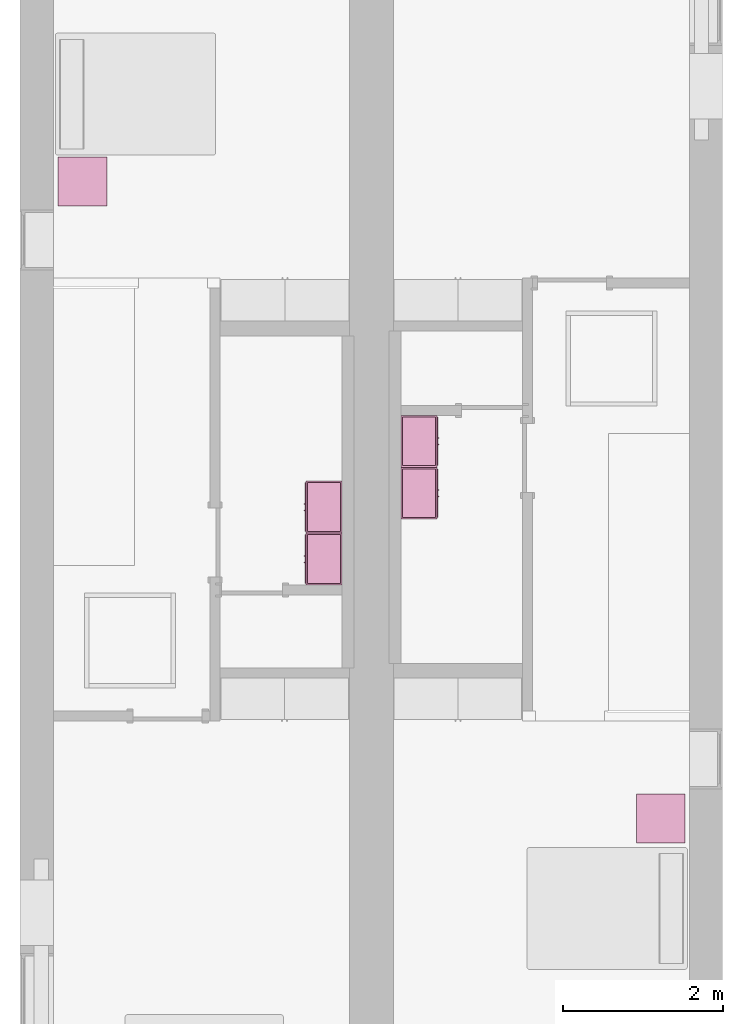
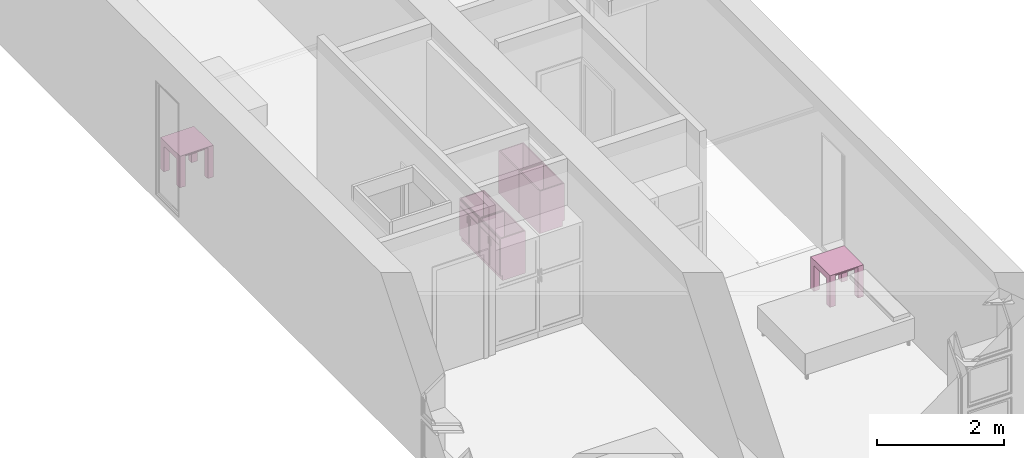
# One storey, part 6 of 8: 6 furnishings.
"""IFC4 building model written with IfcOpenShell, lengths in metres."""

from ifc_helpers import new_model, entity, si_unit, converted_unit, frame, origin, origin_2d_with_axis, place, context, project, spatial, polyline, rectangle, outline, extrude, face_set, surface_model, source, transform, mapped, element, save


model = new_model("IFC4")

# Units and contexts
model_context = context("Model", 3, precision=1e-09, world=origin())
plan_context = context("Plan", 3, precision=1e-09, world=origin())
ifc_project = project(units=[si_unit("LENGTHUNIT", "METRE"), si_unit("AREAUNIT", "SQUARE_METRE"), si_unit("VOLUMEUNIT", "CUBIC_METRE"), converted_unit("PLANEANGLEUNIT", "DEGREE", entity("IfcRatioMeasure", 0.01745329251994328), si_unit("PLANEANGLEUNIT", "RADIAN"), dimensions=[0, 0, 0, 0, 0, 0, 0]), si_unit("TIMEUNIT", "SECOND")], contexts=[model_context, plan_context])

# Site, building, storey, space
site_placement = place(None, origin())
site = spatial("IfcSite", under=ifc_project, at=site_placement, Name="Default", CompositionType="ELEMENT")
building_placement = place(site_placement, origin())
building = spatial("IfcBuilding", under=site, at=building_placement, CompositionType="ELEMENT")
storey_placement = place(building_placement, frame((0.0, 0.0, 3.100000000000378)))
storey = spatial("IfcBuildingStorey", under=building, at=storey_placement, Name="Level 2", CompositionType="ELEMENT", Elevation=3.100000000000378)
space_1_placement = place(storey_placement, origin())
space_1 = spatial("IfcSpace", under=storey, at=space_1_placement, Name="B203", CompositionType="ELEMENT", PredefinedType="INTERNAL")

# Furnishing
shared_shape_1 = source(origin(), model_context, "Body", "SweptSolid", [
    extrude(rectangle(XDim=0.4067999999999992, YDim=0.4067999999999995, at=origin_2d_with_axis()), frame((0.01826576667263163, 0.09521107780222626, 0.4957000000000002), z_axis=(0.0, 0.0, 1.0), x_axis=(-1.0, 0.0, 0.0)), (0.0, 0.0, 1.0), 0.01270000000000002),
    extrude(outline(polyline([(-0.2732499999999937, -0.3050000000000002), (0.3240499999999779, -0.3050000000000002), (0.3240499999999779, 0.3049999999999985), (-0.2732499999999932, 0.3049999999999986), (-0.2732499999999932, 0.2034000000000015), (0.2224500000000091, 0.2034000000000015), (0.2224500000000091, -0.2033999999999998), (-0.2732499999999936, -0.2033999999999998), (-0.2732499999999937, -0.3050000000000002)])), frame((0.2216657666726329, 0.09521107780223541, 0.2732499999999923), z_axis=(1.0, 0.0, 0.0), x_axis=(0.0, 0.0, 1.0)), (0.0, 0.0, 1.0), 0.1016),
    extrude(outline(polyline([(-0.3050000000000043, -0.3240500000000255), (0.3049999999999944, -0.3240500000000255), (0.3049999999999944, 0.2732500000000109), (0.2034000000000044, 0.2732500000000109), (0.2034000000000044, -0.2224499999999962), (-0.2033999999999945, -0.2224499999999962), (-0.2033999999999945, 0.2732500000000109), (-0.3050000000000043, 0.2732500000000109), (-0.3050000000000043, -0.3240500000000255)])), frame((-0.2867342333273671, 0.09521107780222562, 0.2732500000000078), z_axis=(1.0, 0.0, 0.0), x_axis=(0.0, -1.0, 0.0)), (0.0, 0.0, 1.0), 0.1016),
    extrude(rectangle(XDim=0.4067999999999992, YDim=0.4067999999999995, at=origin_2d_with_axis()), frame((0.01826576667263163, 0.09521107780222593, 0.5973000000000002), z_axis=(0.0, 0.0, 1.0), x_axis=(-1.0, 0.0, 0.0)), (0.0, 0.0, 1.0), 0.01270000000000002),
    extrude(outline(polyline([(-0.3050000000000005, -0.3050000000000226), (0.3050000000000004, -0.3050000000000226), (0.3050000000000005, 0.3050000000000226), (-0.3050000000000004, 0.3050000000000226), (-0.3050000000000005, -0.3050000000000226)]), holes=[polyline([(-0.203399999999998, -0.2033999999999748), (-0.2033999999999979, 0.2034000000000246), (0.2034000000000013, 0.2034000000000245), (0.2034000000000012, -0.2033999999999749), (-0.203399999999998, -0.2033999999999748)])]), frame((0.01826576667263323, 0.09521107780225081, 0.5973000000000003), z_axis=(0.0, 0.0, 1.0), x_axis=(-1.0, 0.0, 0.0)), (0.0, 0.0, 1.0), 0.01269999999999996),
])
furnishing_1_placement = place(space_1_placement, frame((0.7637342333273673, -5.012211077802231, 0.01899999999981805)))
element("IfcFurnishingElement", 1, at=furnishing_1_placement, inside=space_1, Name="M_Table-Coffee:0610 x 0610 x 0610mm:0610 x 0610 x 0610mm", ObjectType="0610 x 0610 x 0610mm", context=model_context, shape_type="MappedRepresentation", body=[
    mapped(shared_shape_1, transform((0.0, 0.0, 0.0), scale=1.0)),
])

# Space
space_2_placement = place(storey_placement, origin())
space_2 = spatial("IfcSpace", under=storey, at=space_2_placement, Name="A203", CompositionType="ELEMENT", PredefinedType="INTERNAL")

# Furnishing
furnishing_2_placement = place(space_2_placement, frame((8.004734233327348, -12.98921107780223, 0.01899999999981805)))
element("IfcFurnishingElement", 2, at=furnishing_2_placement, inside=space_2, Name="M_Table-Coffee:0610 x 0610 x 0610mm:0610 x 0610 x 0610mm", ObjectType="0610 x 0610 x 0610mm", context=model_context, shape_type="MappedRepresentation", body=[
    mapped(shared_shape_1, transform((0.0, 0.0, 0.0), scale=1.0)),
])

# Space
space_3_placement = place(storey_placement, origin())
space_3 = spatial("IfcSpace", under=storey, at=space_3_placement, Name="B204", CompositionType="ELEMENT", PredefinedType="INTERNAL")

# Furnishings
shared_shape_2 = source(origin(), model_context, "Body", "SurfaceModel", [
    surface_model("IfcFaceBasedSurfaceModel", [(0.6309500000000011, 0.04444999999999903, 0.8199999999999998), (0.6309500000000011, 0.04444999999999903, 0.09999999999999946), (0.01904999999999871, 0.04444999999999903, 0.09999999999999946), (0.01904999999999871, 0.04444999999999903, 0.8199999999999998), (0.6499999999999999, 0.02540000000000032, 0.8199999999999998), (0.0, 0.02540000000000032, 0.8199999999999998), (0.6499999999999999, 0.02540000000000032, 0.09999999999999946), (0.0, 0.02540000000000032, 0.09999999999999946), (0.01904999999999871, 0.4563500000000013, 0.8199999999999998), (0.01904999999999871, 0.4563500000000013, 0.09999999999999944), (0.01904999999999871, 0.06040000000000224, 0.09999999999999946), (0.0, 0.4754, 0.8199999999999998), (0.0, 0.4754, 0.0), (0.0, 0.06040000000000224, 0.0), (0.0, 0.06040000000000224, 0.09999999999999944), (0.6309500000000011, 0.4563500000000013, 0.8199999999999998), (0.6309500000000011, 0.4563500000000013, 0.09999999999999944), (0.6499999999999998, 0.4754, 0.8199999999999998), (0.6499999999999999, 0.4754, 0.0), (0.6309500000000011, 0.06040000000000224, 0.09999999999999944), (0.6499999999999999, 0.06040000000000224, 0.09999999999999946), (0.6499999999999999, 0.06040000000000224, 0.0), (0.2900749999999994, 0.0, 0.6422000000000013), (0.2900749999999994, 0.0, 0.5174698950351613), (0.2773749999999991, 0.0, 0.5174698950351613), (0.2773749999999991, 0.0, 0.6422000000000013), (0.3726249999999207, 0.0, 0.6422000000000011), (0.3726249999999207, 0.0, 0.5174698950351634), (0.3599249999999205, 0.0, 0.5174698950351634), (0.3599249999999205, 0.0, 0.6422000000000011), (0.2900749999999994, 0.01270000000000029, 0.6422000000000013), (0.2900749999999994, 0.01270000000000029, 0.5174698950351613), (0.2773749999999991, 0.01270000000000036, 0.5174698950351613), (0.2773749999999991, 0.01270000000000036, 0.6422000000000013), (0.3726249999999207, 0.01270000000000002, 0.6422000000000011), (0.3726249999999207, 0.01270000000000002, 0.5174698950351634), (0.3599249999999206, 0.01270000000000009, 0.5174698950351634), (0.3599249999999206, 0.01270000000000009, 0.6422000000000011), (0.3154749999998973, 0.01270000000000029, 0.6803000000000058), (0.3154749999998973, 0.01270000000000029, 0.1190499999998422), (0.01905000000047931, 0.01270000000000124, 0.1190499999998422), (0.01905000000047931, 0.01270000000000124, 0.6803000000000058), (0.6309500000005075, 0.01269999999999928, 0.6803000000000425), (0.6309500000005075, 0.01269999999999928, 0.1190499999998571), (0.3345249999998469, 0.01270000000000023, 0.1190499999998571), (0.3345249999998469, 0.01270000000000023, 0.6803000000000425), (0.6309500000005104, 0.01269999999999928, 0.8009500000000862), (0.6309500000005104, 0.01269999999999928, 0.699350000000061), (0.01905000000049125, 0.01270000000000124, 0.699350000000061), (0.01905000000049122, 0.01270000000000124, 0.8009500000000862), (0.3154749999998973, 0.02540000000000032, 0.6803000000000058), (0.3154749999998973, 0.02540000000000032, 0.1190499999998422), (0.01905000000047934, 0.02540000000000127, 0.1190499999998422), (0.01905000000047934, 0.02540000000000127, 0.6803000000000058), (0.6309500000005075, 0.0253999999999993, 0.6803000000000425), (0.6309500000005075, 0.0253999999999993, 0.1190499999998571), (0.3345249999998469, 0.02540000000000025, 0.1190499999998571), (0.3345249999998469, 0.02540000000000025, 0.6803000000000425), (0.6309500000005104, 0.0253999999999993, 0.8009500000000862), (0.6309500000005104, 0.0253999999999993, 0.699350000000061), (0.01905000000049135, 0.02540000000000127, 0.699350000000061), (0.01905000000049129, 0.02540000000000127, 0.8009500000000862), (0.6309500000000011, 0.4563500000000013, 0.119049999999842), (0.6309500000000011, 0.04444999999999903, 0.119049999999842), (0.01904999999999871, 0.04444999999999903, 0.119049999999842), (0.01904999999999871, 0.4563500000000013, 0.119049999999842), (0.6309500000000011, 0.4563500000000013, 0.09999999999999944), (0.6309500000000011, 0.04444999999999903, 0.09999999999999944), (0.01904999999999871, 0.04444999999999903, 0.09999999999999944), (0.01904999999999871, 0.4563500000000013, 0.09999999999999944)], [face_set([[[0, 1, 2, 3]], [[0, 4, 5, 3]], [[4, 6, 7, 5]], [[2, 1, 6, 7]], [[3, 8, 9, 10, 2]], [[5, 11, 8, 3]], [[7, 5, 11, 12, 13, 14]], [[2, 7, 14, 10]], [[8, 15, 16, 9]], [[11, 17, 15, 8]], [[12, 11, 17, 18]], [[1, 19, 16, 15, 0]], [[0, 15, 17, 4]], [[4, 6, 20, 21, 18, 17]], [[6, 1, 19, 20]], [[10, 9, 16, 19]], [[18, 21, 13, 12]], [[13, 14, 10, 19, 20, 21]]]), face_set([[[22, 23, 24, 25]], [[26, 27, 28, 29]], [[30, 31, 32, 33]], [[34, 35, 36, 37]], [[25, 33, 30, 22]], [[24, 32, 33, 25]], [[23, 24, 32, 31]], [[22, 23, 31, 30]], [[29, 37, 34, 26]], [[28, 36, 37, 29]], [[27, 28, 36, 35]], [[26, 27, 35, 34]]]), face_set([[[38, 39, 40, 41]], [[42, 43, 44, 45]], [[46, 47, 48, 49]], [[50, 51, 52, 53]], [[54, 55, 56, 57]], [[58, 59, 60, 61]], [[41, 53, 50, 38]], [[40, 41, 53, 52]], [[39, 40, 52, 51]], [[38, 39, 51, 50]], [[45, 57, 54, 42]], [[44, 56, 57, 45]], [[43, 44, 56, 55]], [[42, 43, 55, 54]], [[49, 61, 58, 46]], [[48, 49, 61, 60]], [[47, 48, 60, 59]], [[46, 47, 59, 58]]]), face_set([[[62, 63, 64, 65]], [[66, 67, 68, 69]], [[65, 62, 66, 69]], [[64, 65, 69, 68]], [[63, 67, 68, 64]], [[62, 63, 67, 66]]])]),
])
for number, where, z_axis, x_axis in (
    (3, (3.554599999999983, -9.32005117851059, 0.01299999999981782), (0.0, 0.0, 1.0), (0.0, -1.0, 0.0)),
    (4, (3.554599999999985, -8.67005117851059, 0.01299999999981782), (0.0, 0.0, 1.0), (0.0, -1.0, 0.0)),
):
    element("IfcFurnishingElement", number, at=place(space_3_placement, frame(where, z_axis=z_axis, x_axis=x_axis)), inside=space_3, Name="M_Vanity Cabinet-Double Door Sink Unit:650 x 450 mm:650 x 450 mm", ObjectType="650 x 450 mm", context=model_context, shape_type="MappedRepresentation", body=[
        mapped(shared_shape_2, transform((0.0, 0.0, 0.0), scale=1.0)),
    ])

# Space
space_4_placement = place(storey_placement, origin())
space_4 = spatial("IfcSpace", under=storey, at=space_4_placement, Name="A204", CompositionType="ELEMENT", PredefinedType="INTERNAL")

# Furnishings
shared_shape_3 = source(origin(), model_context, "Body", "SurfaceModel", [
    surface_model("IfcFaceBasedSurfaceModel", [(0.6309500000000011, 0.430950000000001, 0.8199999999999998), (0.01904999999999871, 0.430950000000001, 0.8199999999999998), (0.01904999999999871, 0.430950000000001, 0.09999999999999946), (0.6309500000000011, 0.430950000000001, 0.09999999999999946), (0.0, 0.4499999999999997, 0.8199999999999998), (0.6499999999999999, 0.4499999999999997, 0.8199999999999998), (0.0, 0.4499999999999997, 0.09999999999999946), (0.6499999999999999, 0.4499999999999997, 0.09999999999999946), (0.01904999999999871, 0.4149999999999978, 0.09999999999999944), (0.01904999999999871, 0.01904999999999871, 0.09999999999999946), (0.01904999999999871, 0.01904999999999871, 0.8199999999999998), (0.0, 0.0, 0.8199999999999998), (0.0, 0.0, 0.0), (0.0, 0.4149999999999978, 0.0), (0.0, 0.4149999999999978, 0.09999999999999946), (0.6309500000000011, 0.01904999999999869, 0.09999999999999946), (0.6309500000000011, 0.01904999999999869, 0.8199999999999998), (0.6499999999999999, 0.0, 0.8199999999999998), (0.6499999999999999, 0.0, 0.0), (0.6309500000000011, 0.4149999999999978, 0.09999999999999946), (0.6499999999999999, 0.4149999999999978, 0.0), (0.6499999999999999, 0.4149999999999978, 0.09999999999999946), (0.2900749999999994, 0.4753999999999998, 0.6422000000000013), (0.2773749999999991, 0.4753999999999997, 0.6422000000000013), (0.2773749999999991, 0.4753999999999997, 0.5174698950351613), (0.2900749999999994, 0.4753999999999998, 0.5174698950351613), (0.3726249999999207, 0.4754, 0.6422000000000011), (0.3599249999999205, 0.4753999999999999, 0.6422000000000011), (0.3599249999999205, 0.4753999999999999, 0.5174698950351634), (0.3726249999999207, 0.4754, 0.5174698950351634), (0.2900749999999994, 0.4626999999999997, 0.6422000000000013), (0.2773749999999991, 0.4626999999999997, 0.6422000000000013), (0.2773749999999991, 0.4626999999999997, 0.5174698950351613), (0.2900749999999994, 0.4626999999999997, 0.5174698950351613), (0.3726249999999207, 0.4627, 0.6422000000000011), (0.3599249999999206, 0.4626999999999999, 0.6422000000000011), (0.3599249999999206, 0.4626999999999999, 0.5174698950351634), (0.3726249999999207, 0.4627, 0.5174698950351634), (0.3154749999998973, 0.4626999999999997, 0.6803000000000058), (0.01905000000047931, 0.4626999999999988, 0.6803000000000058), (0.01905000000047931, 0.4626999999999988, 0.1190499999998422), (0.3154749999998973, 0.4626999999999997, 0.1190499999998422), (0.6309500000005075, 0.4627000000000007, 0.6803000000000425), (0.3345249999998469, 0.4626999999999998, 0.6803000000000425), (0.3345249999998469, 0.4626999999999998, 0.1190499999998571), (0.6309500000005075, 0.4627000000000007, 0.1190499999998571), (0.6309500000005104, 0.4627000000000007, 0.8009500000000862), (0.01905000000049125, 0.4626999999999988, 0.8009500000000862), (0.01905000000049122, 0.4626999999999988, 0.699350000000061), (0.6309500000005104, 0.4627000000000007, 0.699350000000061), (0.3154749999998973, 0.4499999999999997, 0.6803000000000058), (0.01905000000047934, 0.4499999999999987, 0.6803000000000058), (0.01905000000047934, 0.4499999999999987, 0.1190499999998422), (0.3154749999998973, 0.4499999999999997, 0.1190499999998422), (0.6309500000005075, 0.4500000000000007, 0.6803000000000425), (0.3345249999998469, 0.4499999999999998, 0.6803000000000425), (0.3345249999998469, 0.4499999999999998, 0.1190499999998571), (0.6309500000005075, 0.4500000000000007, 0.1190499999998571), (0.6309500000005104, 0.4500000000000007, 0.8009500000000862), (0.01905000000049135, 0.4499999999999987, 0.8009500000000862), (0.01905000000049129, 0.4499999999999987, 0.699350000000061), (0.6309500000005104, 0.4500000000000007, 0.699350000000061), (0.6309500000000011, 0.01904999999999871, 0.119049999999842), (0.01904999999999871, 0.01904999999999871, 0.119049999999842), (0.01904999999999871, 0.430950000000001, 0.119049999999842), (0.6309500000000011, 0.430950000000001, 0.119049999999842), (0.6309500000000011, 0.01904999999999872, 0.09999999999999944), (0.01904999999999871, 0.01904999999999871, 0.09999999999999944), (0.01904999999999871, 0.430950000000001, 0.09999999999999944), (0.6309500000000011, 0.430950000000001, 0.09999999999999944)], [face_set([[[0, 1, 2, 3]], [[0, 1, 4, 5]], [[5, 4, 6, 7]], [[2, 6, 7, 3]], [[1, 2, 8, 9, 10]], [[4, 1, 10, 11]], [[6, 4, 11, 12, 13, 14]], [[2, 8, 14, 6]], [[10, 9, 15, 16]], [[11, 10, 16, 17]], [[12, 18, 17, 11]], [[3, 0, 16, 15, 19]], [[0, 5, 17, 16]], [[5, 17, 18, 20, 21, 7]], [[7, 21, 19, 3]], [[8, 19, 15, 9]], [[18, 12, 13, 20]], [[13, 20, 21, 19, 8, 14]]]), face_set([[[22, 23, 24, 25]], [[26, 27, 28, 29]], [[30, 31, 32, 33]], [[34, 35, 36, 37]], [[23, 22, 30, 31]], [[24, 23, 31, 32]], [[25, 33, 32, 24]], [[22, 30, 33, 25]], [[27, 26, 34, 35]], [[28, 27, 35, 36]], [[29, 37, 36, 28]], [[26, 34, 37, 29]]]), face_set([[[38, 39, 40, 41]], [[42, 43, 44, 45]], [[46, 47, 48, 49]], [[50, 51, 52, 53]], [[54, 55, 56, 57]], [[58, 59, 60, 61]], [[39, 38, 50, 51]], [[40, 52, 51, 39]], [[41, 53, 52, 40]], [[38, 50, 53, 41]], [[43, 42, 54, 55]], [[44, 43, 55, 56]], [[45, 57, 56, 44]], [[42, 54, 57, 45]], [[47, 46, 58, 59]], [[48, 60, 59, 47]], [[49, 61, 60, 48]], [[46, 58, 61, 49]]]), face_set([[[62, 63, 64, 65]], [[66, 67, 68, 69]], [[63, 67, 66, 62]], [[64, 68, 67, 63]], [[65, 64, 68, 69]], [[62, 66, 69, 65]]])]),
])
for number, where, z_axis, x_axis in (
    (5, (4.770000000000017, -8.495384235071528, 0.01299999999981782), (0.0, 0.0, 1.0), (0.0, -1.0, 0.0)),
    (6, (4.770000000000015, -7.845384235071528, 0.01299999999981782), (0.0, 0.0, 1.0), (0.0, -1.0, 0.0)),
):
    element("IfcFurnishingElement", number, at=place(space_4_placement, frame(where, z_axis=z_axis, x_axis=x_axis)), inside=space_4, Name="M_Vanity Cabinet-Double Door Sink Unit:650 x 450 mm:650 x 450 mm", ObjectType="650 x 450 mm", context=model_context, shape_type="MappedRepresentation", body=[
        mapped(shared_shape_3, transform((0.0, 0.0, 0.0), scale=1.0)),
    ])

save(model, "model.ifc")
